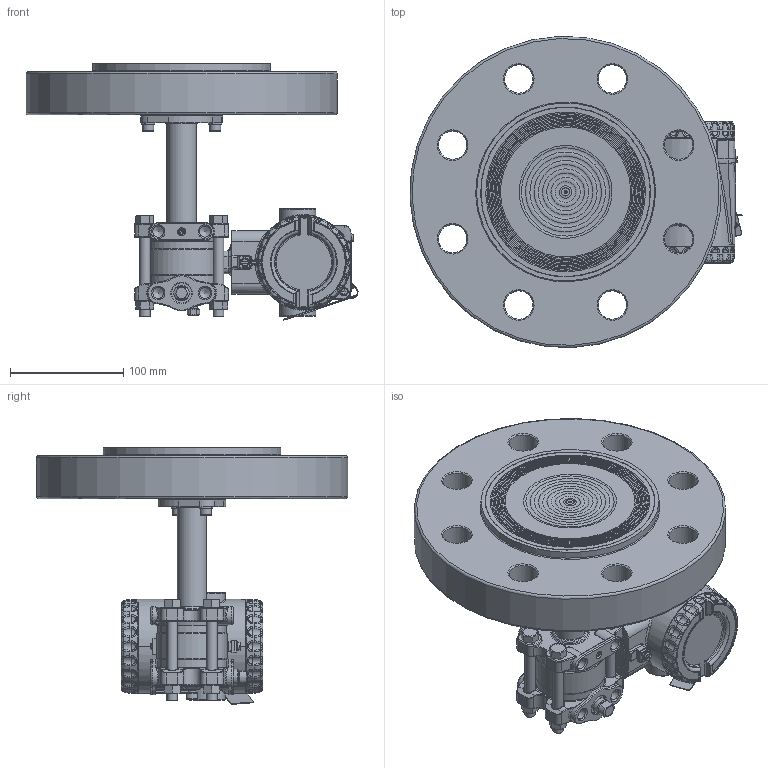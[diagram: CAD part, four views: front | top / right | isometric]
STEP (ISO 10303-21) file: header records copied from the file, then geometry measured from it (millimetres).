
FILE_DESCRIPTION(/* description */ (''),/* implementation_level */ '2;1');
FILE_NAME(/* name */ 'F:\Area\Desenvolvimento_2\Projects\Sensor\projetos\LD400-3d\dimensionais 3D clientes\LD400L\LD400L 4-600 RF ref 1-4NPT purga acima.stp',/* time_stamp */ '2023-02-23T17:01:12-03:00',/* author */ ('inventor02'),/* organization */ (''),/* preprocessor_version */ 'ST-DEVELOPER v17',/* originating_system */ 'Autodesk Inventor 2019',/* authorisation */ '');
FILE_SCHEMA (('CONFIG_CONTROL_DESIGN'));
Products named in the file (38): LD30XL 4-600 RF ref 1-4NPT purga acima; 204-0301-L-4 600 RF purga acima; nivel fx3 com baixa diferencial 1-4NPT purga acima; involucro fx0-3 apos a usinagem final; flange diferencial std purga; 101-C-7484-01 flange selo nivel VR; 201-A-0504-tubo união teste 1; bujao 1-4NPT; Sangria; Porca 3-8 x 16 UNC; Paraf. 3-8 x 16 UNC; adaptação tubo x flanges 1-1-2 a 4pol; 101-B-0161-anel cortado do tubo - teste1; 101-B-0162-flange fixação tubo; ANSI B18.3.1M - M6x1 x 16; DIN 127 - A 6; 101-C-0130-10; Carcaça 400 com tampas e plaqueta sem letras; 101-D-0845-05 carcaça LD400 sem letras; 101-B-3614-03-tampa 400 sem letras; Tampa visor 400 montada sem letras; 101-B-3612-05 tampa visor 400 sem letras; 101-A-6107; oring 2034; 00034775-0; WHW_250; DIN 915 - M6 x 10; Chapa aterramento externo; 201-A-1771-02 inserto terra recartilhado; AS 1969 - ST4,2; ISO 1207 - M4 x 8; ANSI B18.3.1M - M4x0,7 x 8; Subconjunto plaqueta 400; plaqueta 400 em branco; Parafuso da Plaqueta; Rebite da Plaqueta; 096-A-0169-03; 101-A-0502-01
Assembly tree (47 placements, depth 4):
  LD30XL 4-600 RF ref 1-4NPT purga acima
    204-0301-L-4 600 RF purga acima
      nivel fx3 com baixa diferencial 1-4NPT purga acima
        involucro fx0-3 apos a usinagem final
        flange diferencial std purga
        101-C-7484-01 flange selo nivel VR
        201-A-0504-tubo união teste 1
        DIN 915 - M6 x 10
        bujao 1-4NPT
        Sangria
        Porca 3-8 x 16 UNC  x4
        Paraf. 3-8 x 16 UNC  x4
      adaptação tubo x flanges 1-1-2 a 4pol
        101-B-0161-anel cortado do tubo - teste1
        101-B-0162-flange fixação tubo
        ANSI B18.3.1M - M6x1 x 16  x2
        DIN 127 - A 6  x2
      101-C-0130-10
    Carcaça 400 com tampas e plaqueta sem letras
      101-D-0845-05 carcaça LD400 sem letras
      101-B-3614-03-tampa 400 sem letras
      Tampa visor 400 montada sem letras
        101-B-3612-05 tampa visor 400 sem letras
        101-A-6107
        oring 2034
        00034775-0
        WHW_250
      DIN 915 - M6 x 10
      Chapa aterramento externo
      201-A-1771-02 inserto terra recartilhado
      AS 1969 - ST4,2
      ISO 1207 - M4 x 8
      ANSI B18.3.1M - M4x0,7 x 8  x2
      Subconjunto plaqueta 400
        plaqueta 400 em branco
        Parafuso da Plaqueta
        Rebite da Plaqueta
        096-A-0169-03
        101-A-0502-01
Bounding box: 293.12 x 274.74 x 226.52 mm (x, y, z)
Volume: 2870103.3 mm3; surface area: 430532.6 mm2
Topology: 41 solids, 41 shells, 2729 faces, 6626 edges, 3964 vertices
Faces by surface type: plane 707, cylinder 660, bspline 604, torus 458, cone 224, sphere 76
Full cylindrical faces by diameter (mm): 2 x4, 2.1 x1, 2.2 x1, 2.459 x3, 2.5 x1, 2.7 x1, 2.8 x1, 3 x4, 3.242 x3, 3.5 x1, 3.571 x1, 4 x5, 4.3 x2, 4.4 x1, 4.917 x4, 5 x1, 5.5 x3, 6 x6, 6.1 x2, 6.2 x1, 6.647 x1, 7 x5, 7.6 x2, 7.798 x4, 8 x1, 9.525 x4, 9.728 x6, 10 x2, 10.5 x8, 10.719 x2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
Entity records: 97417 total; most frequent: CARTESIAN_POINT 36875, ORIENTED_EDGE 12492, DIRECTION 12444, EDGE_CURVE 6246, AXIS2_PLACEMENT_3D 5312, VERTEX_POINT 3770, CIRCLE 3076, EDGE_LOOP 2758
